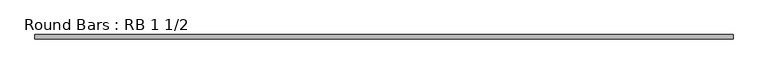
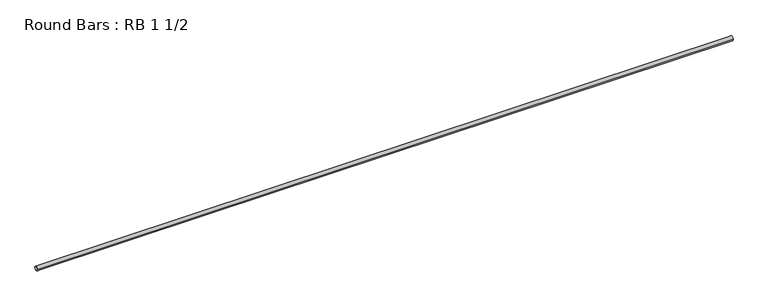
"""IFC4 building model written with IfcOpenShell, lengths in millimetres: member geometry, Round Bars : RB 1 1/2."""

from ifc_helpers import new_model, si_unit, point, frame, origin, origin_2d, place, context, project, spatial, circle_curve, trimmed, segment, composite_curve, outline, extrude, source, transform, mapped, element, save


def round_bars_rb_1_1_2_9f87a777(model_context):
    return source(origin(), model_context, "Body", "SweptSolid", [
        extrude(outline(composite_curve([segment(trimmed(circle_curve(origin_2d(), 19.05), [point((19.05, 0.0))], [point((-19.05, 0.0))], False, "CARTESIAN"), True, "CONTINUOUS"), segment(trimmed(circle_curve(origin_2d(), 19.05), [point((-19.05, 0.0))], [point((19.05, 0.0))], False, "CARTESIAN"), True, "CONTINUOUS")], self_intersect=False)), frame((-3097.5190346, 0.0, 0.0), z_axis=(1.0, 0.0, 0.0), x_axis=(0.0, 1.0, 0.0)), (0.0, 0.0, 1.0), 6195.0380693),
    ])


if __name__ == "__main__":
    model = new_model("IFC4")
    model_context = context("Model", 3, world=origin())
    ifc_project = project(units=[si_unit("LENGTHUNIT", "METRE", prefix="MILLI")], contexts=[model_context])
    site = spatial("IfcSite", under=ifc_project)
    building = spatial("IfcBuilding", under=site)
    placement = place(None, origin())
    round_bars_rb_1_1_2_shape = round_bars_rb_1_1_2_9f87a777(model_context)
    element("IfcMember", 1, ObjectType="Round Bars : RB 1 1/2", at=placement, inside=building, context=model_context, shape_type="MappedRepresentation", body=[
        mapped(round_bars_rb_1_1_2_shape, transform((0.0, 0.0, 0.0), x_axis=(1.0, 0.0, 0.0), y_axis=(0.0, 1.0, 0.0), z_axis=(0.0, 0.0, 1.0))),
    ])
    save(model, "model.ifc")
